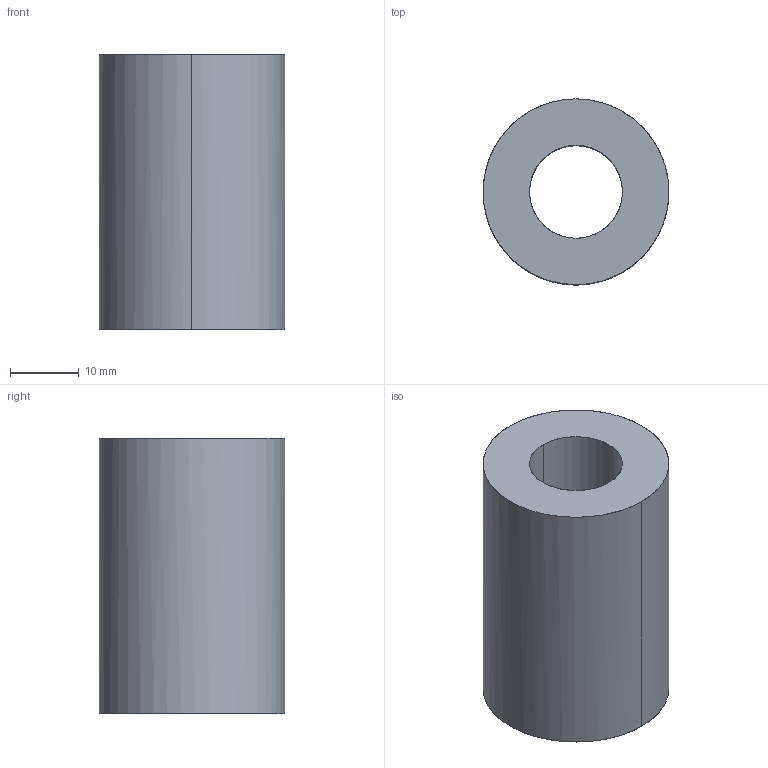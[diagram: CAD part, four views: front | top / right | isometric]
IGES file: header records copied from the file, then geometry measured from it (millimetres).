
Global section: file name: E:\UnigraphicsGraphicData\MISUMI_PRESS-PARTS\IGES\3d_swz27-40_00778_r00.igs; native system: NX V5.0; preprocessor: UGS NX IGES V5.0; author: MISUMI; date: 20110105.163303; units: millimetre
Bounding box: 27 x 27 x 40 mm (x, y, z)
Surface area: 5947.5 mm2 (no closed solid volume)
Topology: 0 solids, 0 shells, 6 faces, 64 edges, 64 vertices
Faces by surface type: bspline 6
